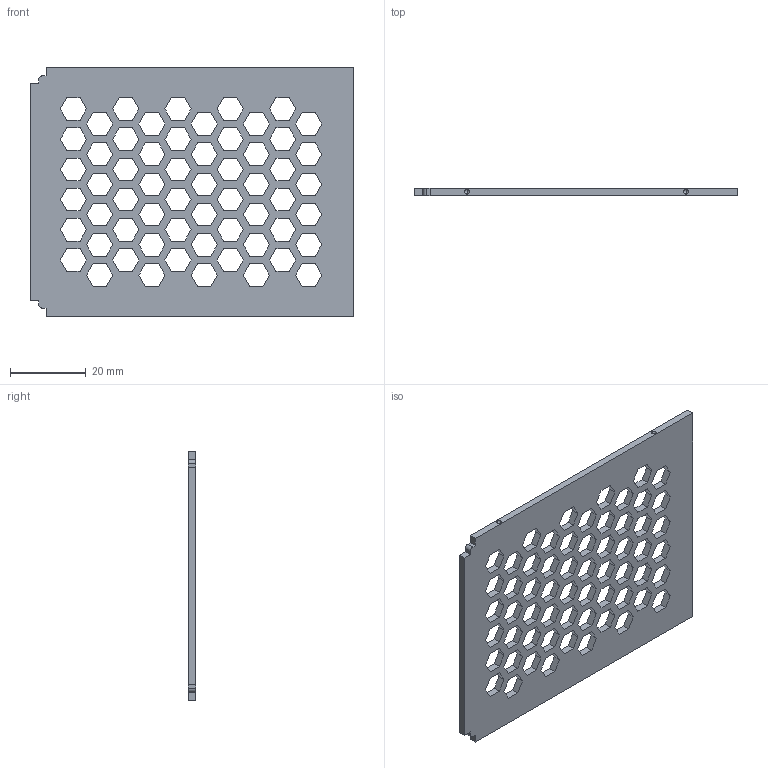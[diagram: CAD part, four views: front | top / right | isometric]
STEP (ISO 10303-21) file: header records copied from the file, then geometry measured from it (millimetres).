
FILE_DESCRIPTION (( 'STEP AP214' ), '1' );
FILE_NAME ('coverplate-rack-hifiberry.STEP', '2019-09-17T19:16:18', ( '' ), ( '' ), 'SwSTEP 2.0', 'SolidWorks 2016', '' );
FILE_SCHEMA (( 'AUTOMOTIVE_DESIGN' ));
Length unit declared in the file: millimetre
Products named in the file (1): coverplate-rack-hifiberry
Bounding box: 85.7 x 1.9 x 66 mm (x, y, z)
Volume: 7136.1 mm3; surface area: 10463.6 mm2
Topology: 1 solids, 1 shells, 384 faces, 1154 edges, 768 vertices
Faces by surface type: plane 374, sphere 8, cylinder 2
Entity records: 12868 total; most frequent: CARTESIAN_POINT 2283, ORIENTED_EDGE 2276, DIRECTION 1928, EDGE_CURVE 1138, LINE 1118, VECTOR 1118, VERTEX_POINT 760, EDGE_LOOP 508
